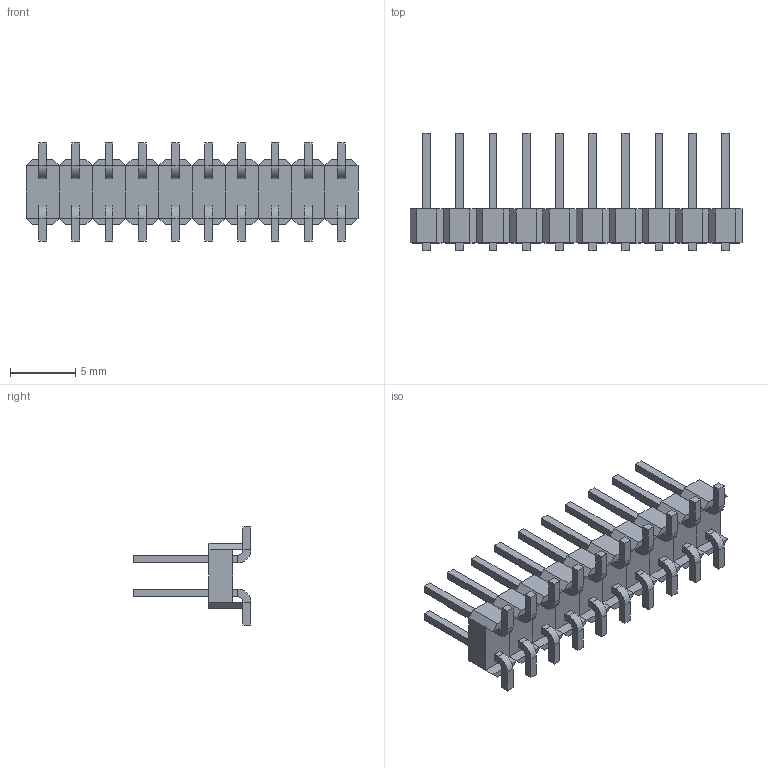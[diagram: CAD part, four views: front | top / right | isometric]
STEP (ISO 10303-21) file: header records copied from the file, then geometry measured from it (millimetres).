
FILE_DESCRIPTION (( 'STEP AP214' ), '1' );
FILE_NAME ('GPIO Curved Extender (20 Pin).STEP', '2019-02-26T05:48:39', ( '' ), ( '' ), 'SwSTEP 2.0', 'SolidWorks 2018', '' );
FILE_SCHEMA (( 'AUTOMOTIVE_DESIGN' ));
Length unit declared in the file: millimetre
Products named in the file (1): GPIO Curved Extender (20 Pin)
Bounding box: 25.4 x 9 x 7.5 mm (x, y, z)
Volume: 301.1 mm3; surface area: 1189.4 mm2
Topology: 30 solids, 30 shells, 500 faces, 1120 edges, 680 vertices
Faces by surface type: plane 460, cylinder 40
Entity records: 13779 total; most frequent: CARTESIAN_POINT 2301, ORIENTED_EDGE 2240, DIRECTION 2202, EDGE_CURVE 1120, LINE 1040, VECTOR 1040, VERTEX_POINT 680, AXIS2_PLACEMENT_3D 581
